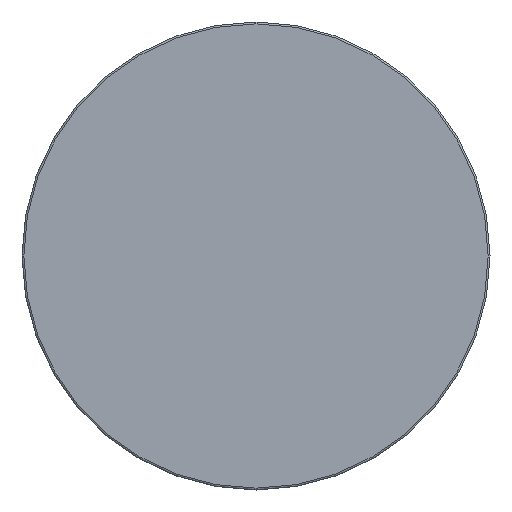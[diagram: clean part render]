
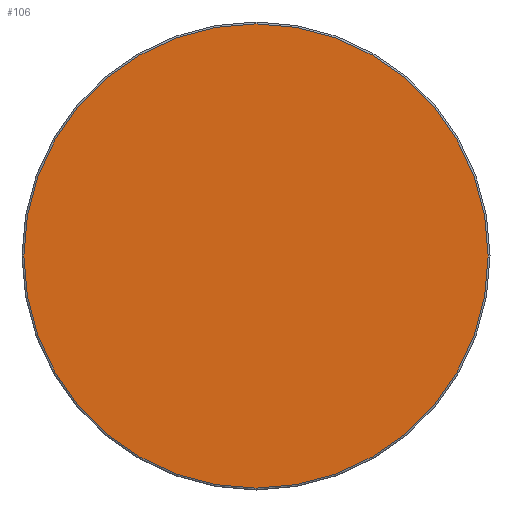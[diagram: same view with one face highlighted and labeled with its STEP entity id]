
A CAD part, front view. The second image highlights one B-rep face of the part: STEP entity #106.
In plain terms, the highlighted planar face has unit normal (0, -1, 0).
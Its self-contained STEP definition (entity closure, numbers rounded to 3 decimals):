
#29=FACE_OUTER_BOUND('',#39,.T.);
#39=EDGE_LOOP('',(#84));
#57=CIRCLE('',#125,12.4);
#66=VERTEX_POINT('',#185);
#75=EDGE_CURVE('',#66,#66,#57,.T.);
#84=ORIENTED_EDGE('',*,*,#75,.F.);
#102=PLANE('',#124);
#106=ADVANCED_FACE('',(#29),#102,.T.);
#124=AXIS2_PLACEMENT_3D('',#184,#145,#146);
#125=AXIS2_PLACEMENT_3D('',#186,#147,#148);
#145=DIRECTION('center_axis',(0.,-1.,0.));
#146=DIRECTION('ref_axis',(0.,0.,-1.));
#147=DIRECTION('center_axis',(0.,1.,0.));
#148=DIRECTION('ref_axis',(-1.,0.,0.));
#184=CARTESIAN_POINT('Origin',(-6.2,0.,0.));
#185=CARTESIAN_POINT('',(-12.4,0.,0.));
#186=CARTESIAN_POINT('Origin',(0.,0.,0.));
